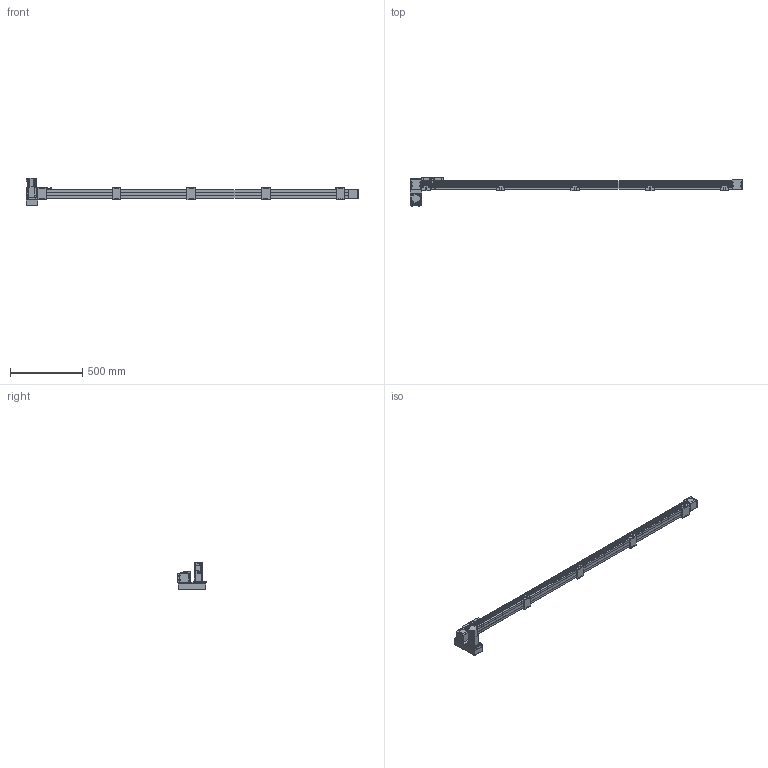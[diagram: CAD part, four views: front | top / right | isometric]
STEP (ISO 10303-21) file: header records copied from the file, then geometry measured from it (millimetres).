
FILE_DESCRIPTION(/* description */ ('STEP AP214'),/* implementation_level */ '2;1');
FILE_NAME(/* name */ 'SK60-P13-S2000-LD-T40-C1-N(0)',/* time_stamp */ '2023-04-06T04:39:32+02:00',/* author */ ('License CC BY-ND 4.0'),/* organization */ ('CADENAS'),/* preprocessor_version */ 'ST-DEVELOPER v19.3',/* originating_system */ 'PARTsolutions',/* authorisation */ ' ');
FILE_SCHEMA (('AUTOMOTIVE_DESIGN {1 0 10303 214 3 1 1}'));
Length unit declared in the file: millimetre
Products named in the file (10): SK60-P13-S2000-LD-T40-C1-N(0); PSC140-sensor; SK60-S450_seat; SK60-S450-BL-C1_slider; SK60_body3; SK60_body6; SK60-BL_body2; T40-p1; SK60-LD_fb; SK60-S2000-LD-C1_body
Assembly tree (19 placements, depth 2):
  SK60-P13-S2000-LD-T40-C1-N(0)
    PSC140-sensor  x3
    SK60-S450_seat  x5
    SK60-S450-BL-C1_slider
    SK60_body3  x3
    SK60_body6  x2
    SK60-BL_body2  x2
    T40-p1
    SK60-LD_fb
    SK60-S2000-LD-C1_body
Bounding box: 2305.5 x 199 x 189.7 mm (x, y, z)
Volume: 9067024 mm3; surface area: 1091717.8 mm2
Topology: 19 solids, 19 shells, 942 faces, 2342 edges, 1541 vertices
Faces by surface type: plane 596, cylinder 310, cone 34, torus 2
Full cylindrical faces by diameter (mm): 2.8 x3, 3.3 x4, 4 x2, 4.5 x30, 4.6 x3, 4.917 x28, 5 x6, 5.478 x4, 5.5 x31, 6.5 x10, 7 x2, 8 x4, 8.5 x4, 9.988 x4, 10 x20, 14 x1, 47 x3, 50 x2
Entity records: 18679 total; most frequent: DIRECTION 3190, CARTESIAN_POINT 3153, ORIENTED_EDGE 2940, EDGE_CURVE 1470, AXIS2_PLACEMENT_3D 1071, LINE 1048, VECTOR 1048, VERTEX_POINT 1034
